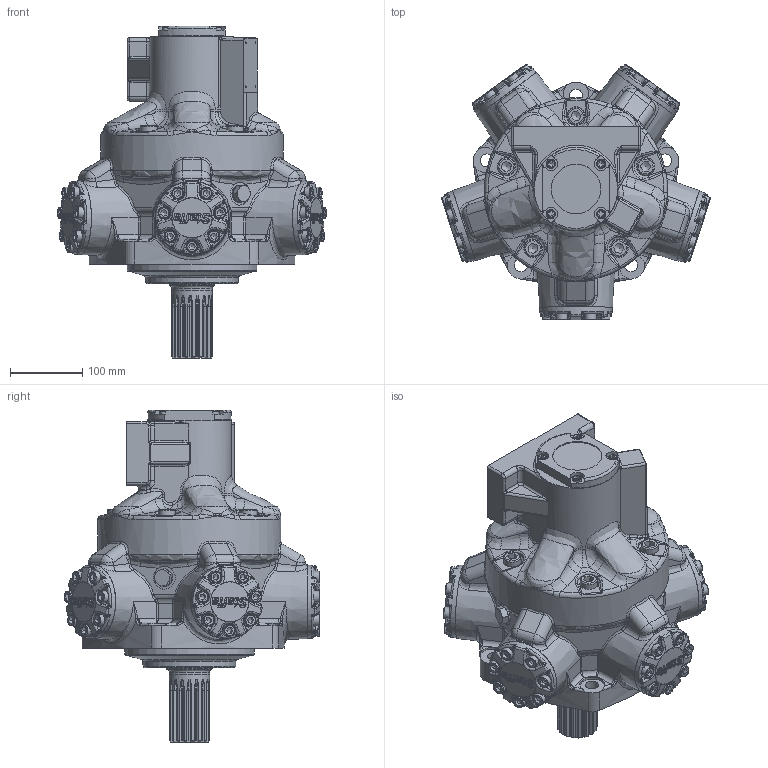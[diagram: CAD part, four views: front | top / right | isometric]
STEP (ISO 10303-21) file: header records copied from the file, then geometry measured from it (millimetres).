
FILE_DESCRIPTION(/* description */ (''),/* implementation_level */ '2;1');
FILE_NAME(/* name */ 'HMB030_S_SFM3_50.stp',/* time_stamp */ '2025-12-15T09:27:02Z',/* author */ ('ccallanga'),/* organization */ (''),/* preprocessor_version */ 'ST-DEVELOPER v20',/* originating_system */ 'Autodesk Inventor 2024',/* authorisation */ '');
FILE_SCHEMA (('AUTOMOTIVE_DESIGN { 1 0 10303 214 3 1 1 }'));
Products named in the file (1): HMB030 Web Assembly_Simplify_1
Bounding box: 373.48 x 355.32 x 460.99 mm (x, y, z)
Volume: 15280190.8 mm3; surface area: 554388.3 mm2
Topology: 1 solids, 1 shells, 4406 faces, 10619 edges, 6230 vertices
Faces by surface type: bspline 1824, plane 967, cylinder 926, torus 407, cone 165, sphere 117
Full cylindrical faces by diameter (mm): 2.2 x4, 8.376 x2, 9.4 x1, 10.25 x8, 11.328 x1, 11.913 x4, 12 x1, 12.7 x4, 13.614 x1, 16 x40, 16.5 x35, 17 x5, 17.78 x1, 18 x5, 23.8 x2, 23.825 x5, 25.4 x5, 31.75 x3, 32 x2, 56.35 x1, 63.474 x1, 67.564 x1, 68.58 x1, 179.934 x1, 228.613 x1, 254 x1
Entity records: 198240 total; most frequent: CARTESIAN_POINT 104494, ORIENTED_EDGE 20884, DIRECTION 14757, EDGE_CURVE 10442, VERTEX_POINT 6230, AXIS2_PLACEMENT_3D 5897, EDGE_LOOP 4608, STYLED_ITEM 4407
